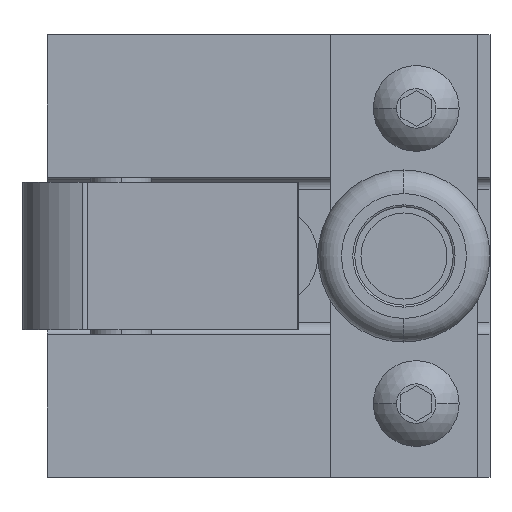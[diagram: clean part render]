
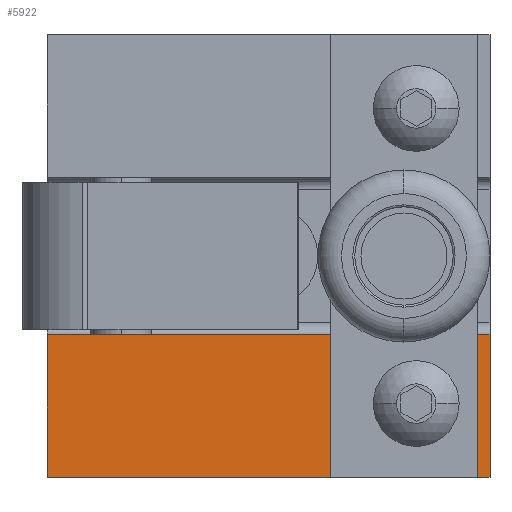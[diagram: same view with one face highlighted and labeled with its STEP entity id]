
A CAD part, left-side view. The second image highlights one B-rep face of the part: STEP entity #5922.
In plain terms, the highlighted planar face has unit normal (-1, 0, 0).
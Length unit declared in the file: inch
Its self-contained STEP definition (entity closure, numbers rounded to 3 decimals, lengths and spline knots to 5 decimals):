
#3349 = FACE_BOUND ( 'NONE', #6051, .T. ) ;
#3359 = FACE_OUTER_BOUND ( 'NONE', #5997, .T. ) ;
#3371 = AXIS2_PLACEMENT_3D ( 'NONE', #3426, #3425, #3424 ) ;
#3372 = PLANE ( 'NONE',  #3371 ) ;
#3394 = DIRECTION ( 'NONE',  ( 0., -1., 0. ) ) ;
#3395 = VECTOR ( 'NONE', #3394, 39.37008 ) ;
#3396 = CARTESIAN_POINT ( 'NONE',  ( 7.43951, 3.75404, -2.25 ) ) ;
#3397 = LINE ( 'NONE', #3396, #3395 ) ;
#3398 = CARTESIAN_POINT ( 'NONE',  ( 7.43951, 3.75404, -1.525 ) ) ;
#3414 = DIRECTION ( 'NONE',  ( 0., -1., 0. ) ) ;
#3415 = VECTOR ( 'NONE', #3414, 39.37008 ) ;
#3416 = CARTESIAN_POINT ( 'NONE',  ( 7.43951, 3.75404, -1.525 ) ) ;
#3417 = LINE ( 'NONE', #3416, #3415 ) ;
#3424 = DIRECTION ( 'NONE',  ( 0., 0., 1. ) ) ;
#3425 = DIRECTION ( 'NONE',  ( -1., 0., 0. ) ) ;
#3426 = CARTESIAN_POINT ( 'NONE',  ( 7.43951, 3.75404, -2.25 ) ) ;
#3439 = CARTESIAN_POINT ( 'NONE',  ( 7.43951, 3.75404, -2.25 ) ) ;
#3637 = DIRECTION ( 'NONE',  ( 0., 0., 1. ) ) ;
#3638 = VECTOR ( 'NONE', #3637, 39.37008 ) ;
#3639 = CARTESIAN_POINT ( 'NONE',  ( 7.43951, 3.75404, -2.25 ) ) ;
#3642 = LINE ( 'NONE', #3639, #3638 ) ;
#3735 = DIRECTION ( 'NONE',  ( 0., 0., 1. ) ) ;
#3828 = DIRECTION ( 'NONE',  ( -1., 0., 0. ) ) ;
#3844 = AXIS2_PLACEMENT_3D ( 'NONE', #3866, #3828, #3735 ) ;
#3866 = CARTESIAN_POINT ( 'NONE',  ( 7.43951, 4.12904, -1.875 ) ) ;
#3867 = CIRCLE ( 'NONE', #3844, 0.125 ) ;
#5922 = ADVANCED_FACE ( 'NONE', ( #3349, #3359 ), #3372, .T. ) ;
#5926 = EDGE_CURVE ( 'NONE', #20590, #5927, #3417, .T. ) ;
#5927 = VERTEX_POINT ( 'NONE', #3398 ) ;
#5928 = ORIENTED_EDGE ( 'NONE', *, *, #20592, .F. ) ;
#5929 = ORIENTED_EDGE ( 'NONE', *, *, #5930, .T. ) ;
#5930 = EDGE_CURVE ( 'NONE', #20619, #5931, #3397, .T. ) ;
#5931 = VERTEX_POINT ( 'NONE', #3439 ) ;
#5932 = ORIENTED_EDGE ( 'NONE', *, *, #6010, .T. ) ;
#5997 = EDGE_LOOP ( 'NONE', ( #5998, #5928, #5929, #5932 ) ) ;
#5998 = ORIENTED_EDGE ( 'NONE', *, *, #5926, .F. ) ;
#6010 = EDGE_CURVE ( 'NONE', #5931, #5927, #3642, .T. ) ;
#6051 = EDGE_LOOP ( 'NONE', ( #6052, #6054 ) ) ;
#6052 = ORIENTED_EDGE ( 'NONE', *, *, #6053, .F. ) ;
#6053 = EDGE_CURVE ( 'NONE', #20577, #20573, #3867, .T. ) ;
#6054 = ORIENTED_EDGE ( 'NONE', *, *, #20650, .F. ) ;
#20060 = CARTESIAN_POINT ( 'NONE',  ( 7.43951, 4.12904, -1.75 ) ) ;
#20076 = DIRECTION ( 'NONE',  ( 0., 0., 1. ) ) ;
#20077 = VECTOR ( 'NONE', #20076, 39.37008 ) ;
#20078 = CARTESIAN_POINT ( 'NONE',  ( 7.43951, 6.00404, -2.25 ) ) ;
#20138 = CARTESIAN_POINT ( 'NONE',  ( 7.43951, 4.12904, -2. ) ) ;
#20146 = LINE ( 'NONE', #20078, #20077 ) ;
#20147 = CARTESIAN_POINT ( 'NONE',  ( 7.43951, 6.00404, -1.525 ) ) ;
#20204 = CARTESIAN_POINT ( 'NONE',  ( 7.43951, 4.12904, -1.875 ) ) ;
#20222 = DIRECTION ( 'NONE',  ( 0., 0., 1. ) ) ;
#20223 = DIRECTION ( 'NONE',  ( -1., 0., 0. ) ) ;
#20224 = AXIS2_PLACEMENT_3D ( 'NONE', #20204, #20223, #20222 ) ;
#20225 = CIRCLE ( 'NONE', #20224, 0.125 ) ;
#20332 = CARTESIAN_POINT ( 'NONE',  ( 7.43951, 6.00404, -2.25 ) ) ;
#20573 = VERTEX_POINT ( 'NONE', #20138 ) ;
#20577 = VERTEX_POINT ( 'NONE', #20060 ) ;
#20590 = VERTEX_POINT ( 'NONE', #20147 ) ;
#20592 = EDGE_CURVE ( 'NONE', #20619, #20590, #20146, .T. ) ;
#20619 = VERTEX_POINT ( 'NONE', #20332 ) ;
#20650 = EDGE_CURVE ( 'NONE', #20573, #20577, #20225, .T. ) ;
